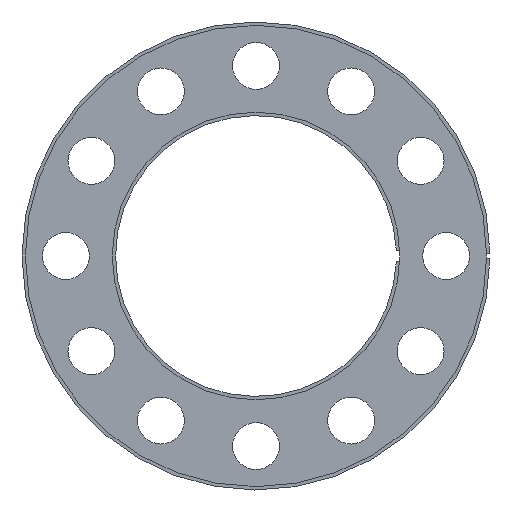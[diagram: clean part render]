
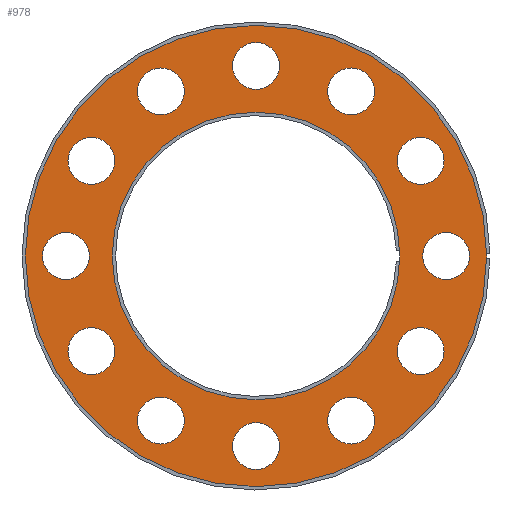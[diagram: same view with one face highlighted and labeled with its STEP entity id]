
A CAD part, left-side view. The second image highlights one B-rep face of the part: STEP entity #978.
In plain terms, the highlighted planar face has unit normal (-1, 0, 0).
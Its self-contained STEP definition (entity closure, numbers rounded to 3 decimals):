
#82=FACE_BOUND('',#426,.T.);
#83=FACE_BOUND('',#427,.T.);
#84=FACE_BOUND('',#428,.T.);
#85=FACE_BOUND('',#429,.T.);
#86=FACE_BOUND('',#430,.T.);
#87=FACE_BOUND('',#431,.T.);
#88=FACE_BOUND('',#432,.T.);
#89=FACE_BOUND('',#433,.T.);
#90=FACE_BOUND('',#434,.T.);
#91=FACE_BOUND('',#435,.T.);
#92=FACE_BOUND('',#436,.T.);
#93=FACE_BOUND('',#437,.T.);
#94=FACE_BOUND('',#438,.T.);
#217=CIRCLE('',#1082,4.);
#219=CIRCLE('',#1085,4.);
#221=CIRCLE('',#1088,4.);
#223=CIRCLE('',#1091,4.);
#225=CIRCLE('',#1094,4.);
#227=CIRCLE('',#1097,4.);
#229=CIRCLE('',#1100,4.);
#231=CIRCLE('',#1103,4.);
#233=CIRCLE('',#1106,4.);
#235=CIRCLE('',#1109,4.);
#237=CIRCLE('',#1112,4.);
#241=CIRCLE('',#1118,39.425);
#242=CIRCLE('',#1120,4.);
#243=CIRCLE('',#1121,24.57);
#302=FACE_OUTER_BOUND('',#425,.T.);
#425=EDGE_LOOP('',(#873));
#426=EDGE_LOOP('',(#874));
#427=EDGE_LOOP('',(#875));
#428=EDGE_LOOP('',(#876));
#429=EDGE_LOOP('',(#877));
#430=EDGE_LOOP('',(#878));
#431=EDGE_LOOP('',(#879));
#432=EDGE_LOOP('',(#880));
#433=EDGE_LOOP('',(#881));
#434=EDGE_LOOP('',(#882));
#435=EDGE_LOOP('',(#883));
#436=EDGE_LOOP('',(#884));
#437=EDGE_LOOP('',(#885));
#438=EDGE_LOOP('',(#886));
#565=VERTEX_POINT('',#1631);
#567=VERTEX_POINT('',#1636);
#569=VERTEX_POINT('',#1641);
#571=VERTEX_POINT('',#1646);
#573=VERTEX_POINT('',#1651);
#575=VERTEX_POINT('',#1656);
#577=VERTEX_POINT('',#1661);
#579=VERTEX_POINT('',#1666);
#581=VERTEX_POINT('',#1671);
#583=VERTEX_POINT('',#1676);
#585=VERTEX_POINT('',#1681);
#589=VERTEX_POINT('',#1691);
#590=VERTEX_POINT('',#1694);
#591=VERTEX_POINT('',#1696);
#669=EDGE_CURVE('',#565,#565,#217,.T.);
#671=EDGE_CURVE('',#567,#567,#219,.T.);
#673=EDGE_CURVE('',#569,#569,#221,.T.);
#675=EDGE_CURVE('',#571,#571,#223,.T.);
#677=EDGE_CURVE('',#573,#573,#225,.T.);
#679=EDGE_CURVE('',#575,#575,#227,.T.);
#681=EDGE_CURVE('',#577,#577,#229,.T.);
#683=EDGE_CURVE('',#579,#579,#231,.T.);
#685=EDGE_CURVE('',#581,#581,#233,.T.);
#687=EDGE_CURVE('',#583,#583,#235,.T.);
#689=EDGE_CURVE('',#585,#585,#237,.T.);
#693=EDGE_CURVE('',#589,#589,#241,.T.);
#694=EDGE_CURVE('',#590,#590,#242,.T.);
#695=EDGE_CURVE('',#591,#591,#243,.T.);
#873=ORIENTED_EDGE('',*,*,#693,.F.);
#874=ORIENTED_EDGE('',*,*,#669,.T.);
#875=ORIENTED_EDGE('',*,*,#671,.T.);
#876=ORIENTED_EDGE('',*,*,#673,.T.);
#877=ORIENTED_EDGE('',*,*,#675,.T.);
#878=ORIENTED_EDGE('',*,*,#677,.T.);
#879=ORIENTED_EDGE('',*,*,#679,.T.);
#880=ORIENTED_EDGE('',*,*,#681,.T.);
#881=ORIENTED_EDGE('',*,*,#683,.T.);
#882=ORIENTED_EDGE('',*,*,#685,.T.);
#883=ORIENTED_EDGE('',*,*,#687,.T.);
#884=ORIENTED_EDGE('',*,*,#689,.T.);
#885=ORIENTED_EDGE('',*,*,#694,.T.);
#886=ORIENTED_EDGE('',*,*,#695,.T.);
#921=PLANE('',#1119);
#978=ADVANCED_FACE('',(#302,#82,#83,#84,#85,#86,#87,#88,#89,#90,#91,#92,
#93,#94),#921,.T.);
#1082=AXIS2_PLACEMENT_3D('',#1632,#1342,#1343);
#1085=AXIS2_PLACEMENT_3D('',#1637,#1348,#1349);
#1088=AXIS2_PLACEMENT_3D('',#1642,#1354,#1355);
#1091=AXIS2_PLACEMENT_3D('',#1647,#1360,#1361);
#1094=AXIS2_PLACEMENT_3D('',#1652,#1366,#1367);
#1097=AXIS2_PLACEMENT_3D('',#1657,#1372,#1373);
#1100=AXIS2_PLACEMENT_3D('',#1662,#1378,#1379);
#1103=AXIS2_PLACEMENT_3D('',#1667,#1384,#1385);
#1106=AXIS2_PLACEMENT_3D('',#1672,#1390,#1391);
#1109=AXIS2_PLACEMENT_3D('',#1677,#1396,#1397);
#1112=AXIS2_PLACEMENT_3D('',#1682,#1402,#1403);
#1118=AXIS2_PLACEMENT_3D('',#1692,#1414,#1415);
#1119=AXIS2_PLACEMENT_3D('',#1693,#1416,#1417);
#1120=AXIS2_PLACEMENT_3D('',#1695,#1418,#1419);
#1121=AXIS2_PLACEMENT_3D('',#1697,#1420,#1421);
#1342=DIRECTION('center_axis',(1.,0.,0.));
#1343=DIRECTION('ref_axis',(0.,0.5,0.866));
#1348=DIRECTION('center_axis',(1.,0.,0.));
#1349=DIRECTION('ref_axis',(0.,0.866,0.5));
#1354=DIRECTION('center_axis',(1.,0.,0.));
#1355=DIRECTION('ref_axis',(0.,1.,0.));
#1360=DIRECTION('center_axis',(1.,0.,0.));
#1361=DIRECTION('ref_axis',(0.,0.866,-0.5));
#1366=DIRECTION('center_axis',(1.,0.,0.));
#1367=DIRECTION('ref_axis',(0.,0.5,-0.866));
#1372=DIRECTION('center_axis',(1.,0.,0.));
#1373=DIRECTION('ref_axis',(0.,0.,-1.));
#1378=DIRECTION('center_axis',(1.,0.,0.));
#1379=DIRECTION('ref_axis',(0.,-0.5,-0.866));
#1384=DIRECTION('center_axis',(1.,0.,0.));
#1385=DIRECTION('ref_axis',(0.,-0.866,-0.5));
#1390=DIRECTION('center_axis',(1.,0.,0.));
#1391=DIRECTION('ref_axis',(0.,-1.,0.));
#1396=DIRECTION('center_axis',(1.,0.,0.));
#1397=DIRECTION('ref_axis',(0.,-0.866,0.5));
#1402=DIRECTION('center_axis',(1.,0.,0.));
#1403=DIRECTION('ref_axis',(0.,-0.5,0.866));
#1414=DIRECTION('center_axis',(1.,0.,0.));
#1415=DIRECTION('ref_axis',(0.,0.,-1.));
#1416=DIRECTION('center_axis',(-1.,0.,0.));
#1417=DIRECTION('ref_axis',(0.,0.,1.));
#1418=DIRECTION('center_axis',(1.,0.,0.));
#1419=DIRECTION('ref_axis',(0.,0.,1.));
#1420=DIRECTION('center_axis',(1.,0.,0.));
#1421=DIRECTION('ref_axis',(0.,0.,-1.));
#1631=CARTESIAN_POINT('',(-11.921,0.116,24.682));
#1632=CARTESIAN_POINT('Origin',(-11.921,2.116,28.146));
#1636=CARTESIAN_POINT('',(-11.921,10.548,14.25));
#1637=CARTESIAN_POINT('Origin',(-11.921,14.012,16.25));
#1641=CARTESIAN_POINT('',(-11.921,14.366,0.));
#1642=CARTESIAN_POINT('Origin',(-11.921,18.366,0.));
#1646=CARTESIAN_POINT('',(-11.921,10.548,-14.25));
#1647=CARTESIAN_POINT('Origin',(-11.921,14.012,-16.25));
#1651=CARTESIAN_POINT('',(-11.921,0.116,-24.682));
#1652=CARTESIAN_POINT('Origin',(-11.921,2.116,-28.146));
#1656=CARTESIAN_POINT('',(-11.921,-14.134,-28.5));
#1657=CARTESIAN_POINT('Origin',(-11.921,-14.134,-32.5));
#1661=CARTESIAN_POINT('',(-11.921,-28.384,-24.682));
#1662=CARTESIAN_POINT('Origin',(-11.921,-30.384,-28.146));
#1666=CARTESIAN_POINT('',(-11.921,-38.815,-14.25));
#1667=CARTESIAN_POINT('Origin',(-11.921,-42.28,-16.25));
#1671=CARTESIAN_POINT('',(-11.921,-42.634,0.));
#1672=CARTESIAN_POINT('Origin',(-11.921,-46.634,0.));
#1676=CARTESIAN_POINT('',(-11.921,-38.815,14.25));
#1677=CARTESIAN_POINT('Origin',(-11.921,-42.28,16.25));
#1681=CARTESIAN_POINT('',(-11.921,-28.384,24.682));
#1682=CARTESIAN_POINT('Origin',(-11.921,-30.384,28.146));
#1691=CARTESIAN_POINT('',(-11.921,25.291,0.));
#1692=CARTESIAN_POINT('Origin',(-11.921,-14.134,0.));
#1693=CARTESIAN_POINT('Origin',(-11.921,25.291,0.));
#1694=CARTESIAN_POINT('',(-11.921,-14.134,28.5));
#1695=CARTESIAN_POINT('Origin',(-11.921,-14.134,32.5));
#1696=CARTESIAN_POINT('',(-11.921,10.436,0.));
#1697=CARTESIAN_POINT('Origin',(-11.921,-14.134,0.));
